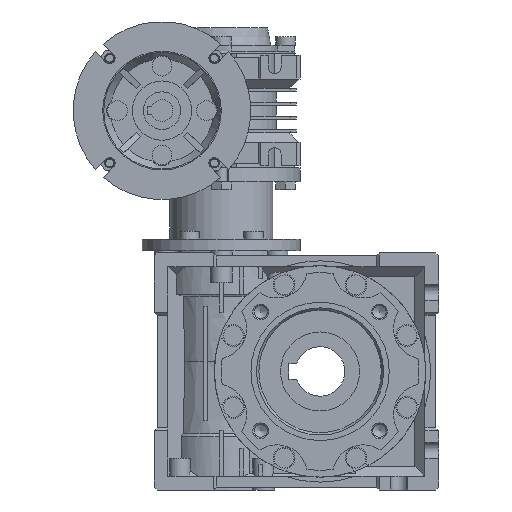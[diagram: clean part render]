
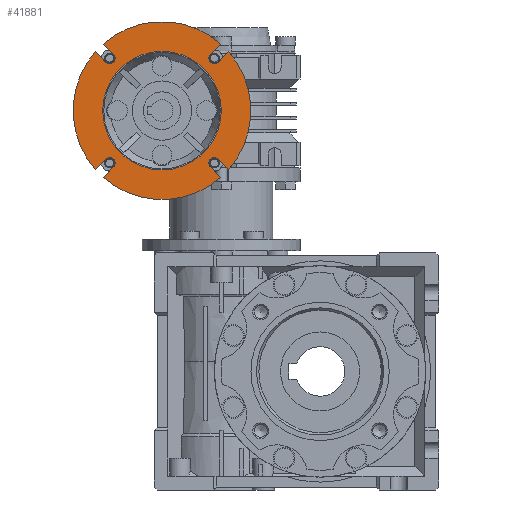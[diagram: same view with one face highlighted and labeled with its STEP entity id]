
A CAD part, left-side view. The second image highlights one B-rep face of the part: STEP entity #41881.
In plain terms, the highlighted planar face has unit normal (-1, 0, 0) as drawn and (1, 0, 0) by its records, which use the part's own axes.
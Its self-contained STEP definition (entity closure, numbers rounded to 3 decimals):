
#1319=PLANE('',#44685);
#4648=LINE('',#62635,#7725);
#4649=LINE('',#62636,#7726);
#4650=LINE('',#62640,#7727);
#4651=LINE('',#62641,#7728);
#4652=LINE('',#62645,#7729);
#4653=LINE('',#62646,#7730);
#4654=LINE('',#62650,#7731);
#4655=LINE('',#62651,#7732);
#7725=VECTOR('',#52967,1000.);
#7726=VECTOR('',#52968,1000.);
#7727=VECTOR('',#52971,1000.);
#7728=VECTOR('',#52972,1000.);
#7729=VECTOR('',#52975,1000.);
#7730=VECTOR('',#52976,1000.);
#7731=VECTOR('',#52979,1000.);
#7732=VECTOR('',#52980,1000.);
#16028=ORIENTED_EDGE('',*,*,#20568,.F.);
#16029=ORIENTED_EDGE('',*,*,#20569,.F.);
#16030=ORIENTED_EDGE('',*,*,#20570,.T.);
#16031=ORIENTED_EDGE('',*,*,#20426,.T.);
#16032=ORIENTED_EDGE('',*,*,#20571,.T.);
#16033=ORIENTED_EDGE('',*,*,#20572,.F.);
#16034=ORIENTED_EDGE('',*,*,#20573,.T.);
#16035=ORIENTED_EDGE('',*,*,#20436,.T.);
#16036=ORIENTED_EDGE('',*,*,#20574,.T.);
#16037=ORIENTED_EDGE('',*,*,#20575,.F.);
#16038=ORIENTED_EDGE('',*,*,#20576,.T.);
#16039=ORIENTED_EDGE('',*,*,#20432,.T.);
#16040=ORIENTED_EDGE('',*,*,#20577,.T.);
#16041=ORIENTED_EDGE('',*,*,#20578,.F.);
#16042=ORIENTED_EDGE('',*,*,#20579,.T.);
#16043=ORIENTED_EDGE('',*,*,#20566,.T.);
#16044=ORIENTED_EDGE('',*,*,#20580,.T.);
#20426=EDGE_CURVE('',#23395,#23396,#24455,.T.);
#20432=EDGE_CURVE('',#23402,#23401,#24458,.T.);
#20436=EDGE_CURVE('',#23406,#23405,#24460,.T.);
#20566=EDGE_CURVE('',#23516,#23515,#24494,.T.);
#20568=EDGE_CURVE('',#23517,#23517,#24495,.T.);
#20569=EDGE_CURVE('',#23518,#23519,#24496,.T.);
#20570=EDGE_CURVE('',#23518,#23395,#4648,.T.);
#20571=EDGE_CURVE('',#23396,#23520,#4649,.T.);
#20572=EDGE_CURVE('',#23521,#23520,#24497,.T.);
#20573=EDGE_CURVE('',#23521,#23406,#4650,.T.);
#20574=EDGE_CURVE('',#23405,#23522,#4651,.T.);
#20575=EDGE_CURVE('',#23523,#23522,#24498,.T.);
#20576=EDGE_CURVE('',#23523,#23402,#4652,.T.);
#20577=EDGE_CURVE('',#23401,#23524,#4653,.T.);
#20578=EDGE_CURVE('',#23525,#23524,#24499,.T.);
#20579=EDGE_CURVE('',#23525,#23516,#4654,.T.);
#20580=EDGE_CURVE('',#23515,#23519,#4655,.T.);
#23395=VERTEX_POINT('',#62226);
#23396=VERTEX_POINT('',#62227);
#23401=VERTEX_POINT('',#62238);
#23402=VERTEX_POINT('',#62240);
#23405=VERTEX_POINT('',#62247);
#23406=VERTEX_POINT('',#62249);
#23515=VERTEX_POINT('',#62625);
#23516=VERTEX_POINT('',#62627);
#23517=VERTEX_POINT('',#62631);
#23518=VERTEX_POINT('',#62633);
#23519=VERTEX_POINT('',#62634);
#23520=VERTEX_POINT('',#62637);
#23521=VERTEX_POINT('',#62639);
#23522=VERTEX_POINT('',#62642);
#23523=VERTEX_POINT('',#62644);
#23524=VERTEX_POINT('',#62647);
#23525=VERTEX_POINT('',#62649);
#24455=CIRCLE('',#44627,45.);
#24458=CIRCLE('',#44631,45.);
#24460=CIRCLE('',#44634,45.);
#24494=CIRCLE('',#44684,45.);
#24495=CIRCLE('',#44686,30.);
#24496=CIRCLE('',#44687,2.75);
#24497=CIRCLE('',#44688,2.75);
#24498=CIRCLE('',#44689,2.75);
#24499=CIRCLE('',#44690,2.75);
#26343=EDGE_LOOP('',(#16028));
#26344=EDGE_LOOP('',(#16029,#16030,#16031,#16032,#16033,#16034,#16035,#16036,
#16037,#16038,#16039,#16040,#16041,#16042,#16043,#16044));
#28301=FACE_BOUND('',#26343,.T.);
#28302=FACE_BOUND('',#26344,.T.);
#41881=ADVANCED_FACE('',(#28301,#28302),#1319,.F.);
#44627=AXIS2_PLACEMENT_3D('',#62225,#52777,#52778);
#44631=AXIS2_PLACEMENT_3D('',#62239,#52788,#52789);
#44634=AXIS2_PLACEMENT_3D('',#62248,#52796,#52797);
#44684=AXIS2_PLACEMENT_3D('',#62626,#52958,#52959);
#44685=AXIS2_PLACEMENT_3D('',#62629,#52961,#52962);
#44686=AXIS2_PLACEMENT_3D('',#62630,#52963,#52964);
#44687=AXIS2_PLACEMENT_3D('',#62632,#52965,#52966);
#44688=AXIS2_PLACEMENT_3D('',#62638,#52969,#52970);
#44689=AXIS2_PLACEMENT_3D('',#62643,#52973,#52974);
#44690=AXIS2_PLACEMENT_3D('',#62648,#52977,#52978);
#52777=DIRECTION('',(1.,0.,0.));
#52778=DIRECTION('',(0.,0.,-1.));
#52788=DIRECTION('',(1.,0.,0.));
#52789=DIRECTION('',(0.,0.,-1.));
#52796=DIRECTION('',(1.,0.,0.));
#52797=DIRECTION('',(0.,0.,-1.));
#52958=DIRECTION('',(1.,0.,0.));
#52959=DIRECTION('',(0.,0.,-1.));
#52961=DIRECTION('',(-1.,0.,0.));
#52962=DIRECTION('',(0.,0.,1.));
#52963=DIRECTION('',(1.,0.,0.));
#52964=DIRECTION('',(0.,0.,-1.));
#52965=DIRECTION('',(1.,0.,0.));
#52966=DIRECTION('',(0.,0.,-1.));
#52967=DIRECTION('',(0.,0.707,0.707));
#52968=DIRECTION('',(0.,0.707,-0.707));
#52969=DIRECTION('',(1.,0.,0.));
#52970=DIRECTION('',(0.,0.,-1.));
#52971=DIRECTION('',(0.,-0.707,0.707));
#52972=DIRECTION('',(0.,0.707,0.707));
#52973=DIRECTION('',(1.,0.,0.));
#52974=DIRECTION('',(0.,0.,-1.));
#52975=DIRECTION('',(0.,-0.707,-0.707));
#52976=DIRECTION('',(0.,-0.707,0.707));
#52977=DIRECTION('',(1.,0.,0.));
#52978=DIRECTION('',(0.,0.,-1.));
#52979=DIRECTION('',(0.,0.707,-0.707));
#52980=DIRECTION('',(0.,-0.707,-0.707));
#62225=CARTESIAN_POINT('',(20.,0.,0.));
#62226=CARTESIAN_POINT('',(20.,29.816,33.705));
#62227=CARTESIAN_POINT('',(20.,-29.816,33.705));
#62238=CARTESIAN_POINT('',(20.,29.816,-33.705));
#62239=CARTESIAN_POINT('',(20.,0.,0.));
#62240=CARTESIAN_POINT('',(20.,-29.816,-33.705));
#62247=CARTESIAN_POINT('',(20.,-33.705,-29.816));
#62248=CARTESIAN_POINT('',(20.,0.,0.));
#62249=CARTESIAN_POINT('',(20.,-33.705,29.816));
#62625=CARTESIAN_POINT('',(20.,33.705,29.816));
#62626=CARTESIAN_POINT('',(20.,0.,0.));
#62627=CARTESIAN_POINT('',(20.,33.705,-29.816));
#62629=CARTESIAN_POINT('',(20.,45.,0.));
#62630=CARTESIAN_POINT('',(20.,0.,0.));
#62631=CARTESIAN_POINT('',(20.,0.,-30.));
#62632=CARTESIAN_POINT('',(20.,26.517,26.517));
#62633=CARTESIAN_POINT('',(20.,24.572,28.461));
#62634=CARTESIAN_POINT('',(20.,28.461,24.572));
#62635=CARTESIAN_POINT('',(20.,24.572,28.461));
#62636=CARTESIAN_POINT('',(20.,-29.816,33.705));
#62637=CARTESIAN_POINT('',(20.,-24.572,28.461));
#62638=CARTESIAN_POINT('',(20.,-26.517,26.517));
#62639=CARTESIAN_POINT('',(20.,-28.461,24.572));
#62640=CARTESIAN_POINT('',(20.,-28.461,24.572));
#62641=CARTESIAN_POINT('',(20.,-33.705,-29.816));
#62642=CARTESIAN_POINT('',(20.,-28.461,-24.572));
#62643=CARTESIAN_POINT('',(20.,-26.517,-26.517));
#62644=CARTESIAN_POINT('',(20.,-24.572,-28.461));
#62645=CARTESIAN_POINT('',(20.,-24.572,-28.461));
#62646=CARTESIAN_POINT('',(20.,29.816,-33.705));
#62647=CARTESIAN_POINT('',(20.,24.572,-28.461));
#62648=CARTESIAN_POINT('',(20.,26.517,-26.517));
#62649=CARTESIAN_POINT('',(20.,28.461,-24.572));
#62650=CARTESIAN_POINT('',(20.,28.461,-24.572));
#62651=CARTESIAN_POINT('',(20.,33.705,29.816));
